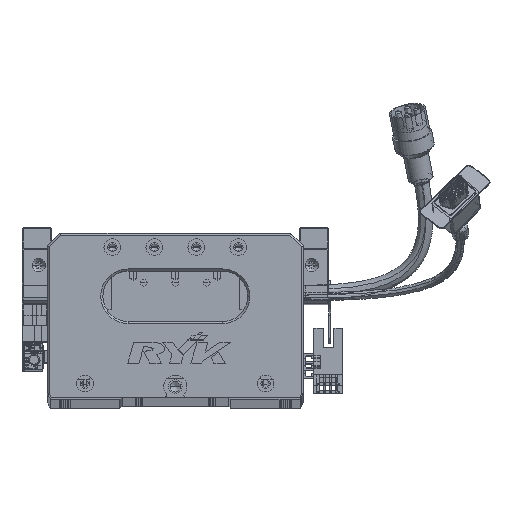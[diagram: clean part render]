
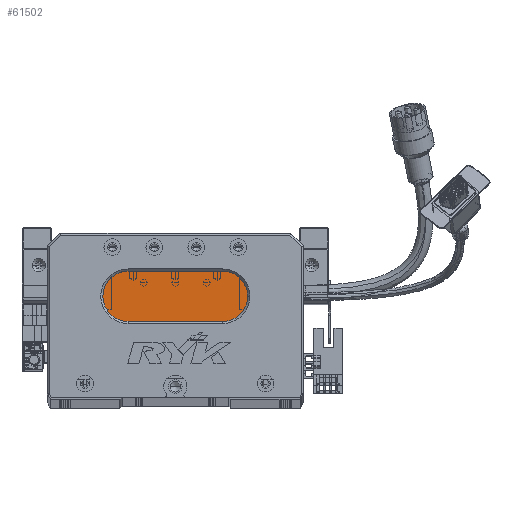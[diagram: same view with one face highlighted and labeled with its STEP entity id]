
A CAD part, top view. The second image highlights one B-rep face of the part: STEP entity #61502.
In plain terms, the highlighted planar face has unit normal (0, 0, 1) as drawn and (0, 0, -1) by its records, which use the part's own axes.
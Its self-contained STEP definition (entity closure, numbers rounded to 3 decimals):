
#8271 = EDGE_LOOP ( 'NONE', ( #16057, #22178, #34133, #48867, #21205 ) ) ;
#9827 = CARTESIAN_POINT ( 'NONE',  ( 38.5, 60., 13. ) ) ;
#10158 = CARTESIAN_POINT ( 'NONE',  ( 38.5, 36., 13. ) ) ;
#11904 = DIRECTION ( 'NONE',  ( 0., 0., -1. ) ) ;
#16057 = ORIENTED_EDGE ( 'NONE', *, *, #65046, .T. ) ;
#20630 = AXIS2_PLACEMENT_3D ( 'NONE', #67875, #11904, #77272 ) ;
#20647 = CARTESIAN_POINT ( 'NONE',  ( 38.5, 48., 13. ) ) ;
#21205 = ORIENTED_EDGE ( 'NONE', *, *, #55637, .T. ) ;
#21280 = CARTESIAN_POINT ( 'NONE',  ( 26.5, 48., 13. ) ) ;
#22178 = ORIENTED_EDGE ( 'NONE', *, *, #100734, .T. ) ;
#23094 = CARTESIAN_POINT ( 'NONE',  ( 38.5, 48., 13. ) ) ;
#26213 = LINE ( 'NONE', #58026, #32044 ) ;
#28036 = PLANE ( 'NONE',  #70300 ) ;
#29988 = DIRECTION ( 'NONE',  ( -1., 0., 0. ) ) ;
#30664 = LINE ( 'NONE', #43469, #65671 ) ;
#32044 = VECTOR ( 'NONE', #104775, 1000. ) ;
#32235 = CIRCLE ( 'NONE', #20630, 12. ) ;
#34133 = ORIENTED_EDGE ( 'NONE', *, *, #51641, .T. ) ;
#37388 = DIRECTION ( 'NONE',  ( 0., 0., -1. ) ) ;
#38715 = CARTESIAN_POINT ( 'NONE',  ( 83.5, 60., 13. ) ) ;
#43469 = CARTESIAN_POINT ( 'NONE',  ( 83.5, 60., 13. ) ) ;
#48867 = ORIENTED_EDGE ( 'NONE', *, *, #114406, .T. ) ;
#49125 = CARTESIAN_POINT ( 'NONE',  ( 83.5, 36., 13. ) ) ;
#51641 = EDGE_CURVE ( 'NONE', #60338, #112635, #77949, .T. ) ;
#55637 = EDGE_CURVE ( 'NONE', #108122, #80153, #30664, .T. ) ;
#58026 = CARTESIAN_POINT ( 'NONE',  ( 83.5, 36., 13. ) ) ;
#60338 = VERTEX_POINT ( 'NONE', #10158 ) ;
#61502 = ADVANCED_FACE ( 'NONE', ( #116013 ), #28036, .T. ) ;
#65014 = VERTEX_POINT ( 'NONE', #49125 ) ;
#65046 = EDGE_CURVE ( 'NONE', #80153, #65014, #32235, .T. ) ;
#65671 = VECTOR ( 'NONE', #108624, 1000. ) ;
#67875 = CARTESIAN_POINT ( 'NONE',  ( 83.5, 48., 13. ) ) ;
#70261 = CIRCLE ( 'NONE', #94112, 12. ) ;
#70300 = AXIS2_PLACEMENT_3D ( 'NONE', #72071, #37388, #100503 ) ;
#72071 = CARTESIAN_POINT ( 'NONE',  ( 83.5, 48., 13. ) ) ;
#77272 = DIRECTION ( 'NONE',  ( -1., 0., 0. ) ) ;
#77949 = CIRCLE ( 'NONE', #116479, 12. ) ;
#80153 = VERTEX_POINT ( 'NONE', #38715 ) ;
#85862 = DIRECTION ( 'NONE',  ( 0., 0., -1. ) ) ;
#94112 = AXIS2_PLACEMENT_3D ( 'NONE', #23094, #107373, #119532 ) ;
#100503 = DIRECTION ( 'NONE',  ( -1., 0., 0. ) ) ;
#100734 = EDGE_CURVE ( 'NONE', #65014, #60338, #26213, .T. ) ;
#104775 = DIRECTION ( 'NONE',  ( -1., 0., 0. ) ) ;
#107373 = DIRECTION ( 'NONE',  ( 0., 0., -1. ) ) ;
#108122 = VERTEX_POINT ( 'NONE', #9827 ) ;
#108624 = DIRECTION ( 'NONE',  ( 1., 0., 0. ) ) ;
#112635 = VERTEX_POINT ( 'NONE', #21280 ) ;
#114406 = EDGE_CURVE ( 'NONE', #112635, #108122, #70261, .T. ) ;
#116013 = FACE_OUTER_BOUND ( 'NONE', #8271, .T. ) ;
#116479 = AXIS2_PLACEMENT_3D ( 'NONE', #20647, #85862, #29988 ) ;
#119532 = DIRECTION ( 'NONE',  ( -1., 0., 0. ) ) ;
